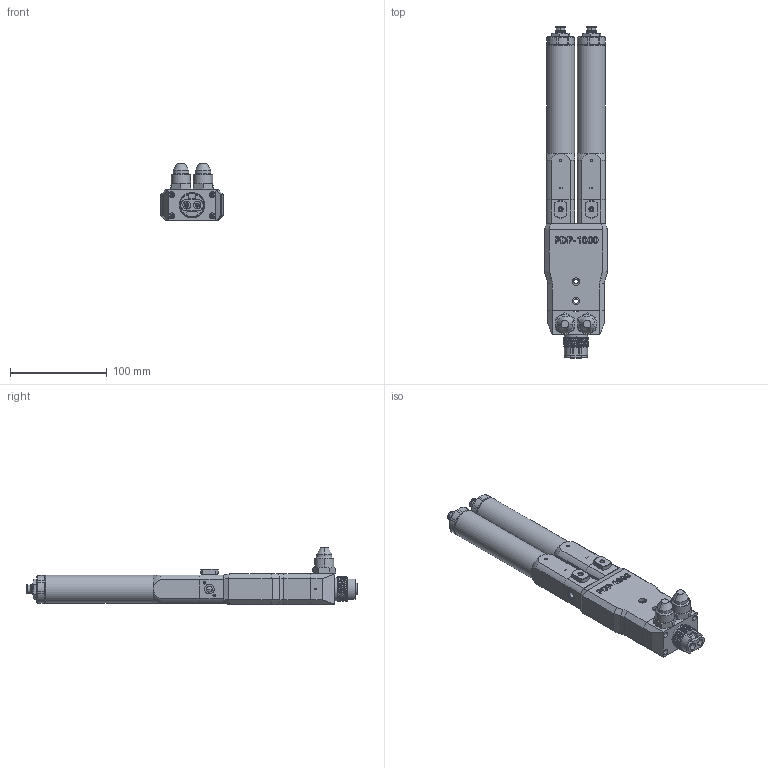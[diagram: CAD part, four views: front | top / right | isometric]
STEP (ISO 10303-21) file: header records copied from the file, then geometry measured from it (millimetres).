
FILE_DESCRIPTION (( 'STEP AP214' ), '1' );
FILE_NAME ('PDPM-1000FA.STEP', '2024-10-11T12:22:33', ( '' ), ( '' ), 'SwSTEP 2.0', 'SolidWorks 2024', '' );
FILE_SCHEMA (( 'AUTOMOTIVE_DESIGN' ));
Length unit declared in the file: millimetre
Products named in the file (1): PDPM-1000FA
Bounding box: 65 x 344 x 59.3 mm (x, y, z)
Volume: 510313.5 mm3; surface area: 122950.2 mm2
Topology: 12 solids, 12 shells, 1372 faces, 3419 edges, 2170 vertices
Faces by surface type: plane 528, cylinder 486, cone 269, bspline 69, torus 12, sphere 8
Full cylindrical faces by diameter (mm): 29 x2
Entity records: 60421 total; most frequent: CARTESIAN_POINT 28355, ORIENTED_EDGE 6762, DIRECTION 6495, EDGE_CURVE 3381, AXIS2_PLACEMENT_3D 2465, VERTEX_POINT 2170, VECTOR 1565, LINE 1565
